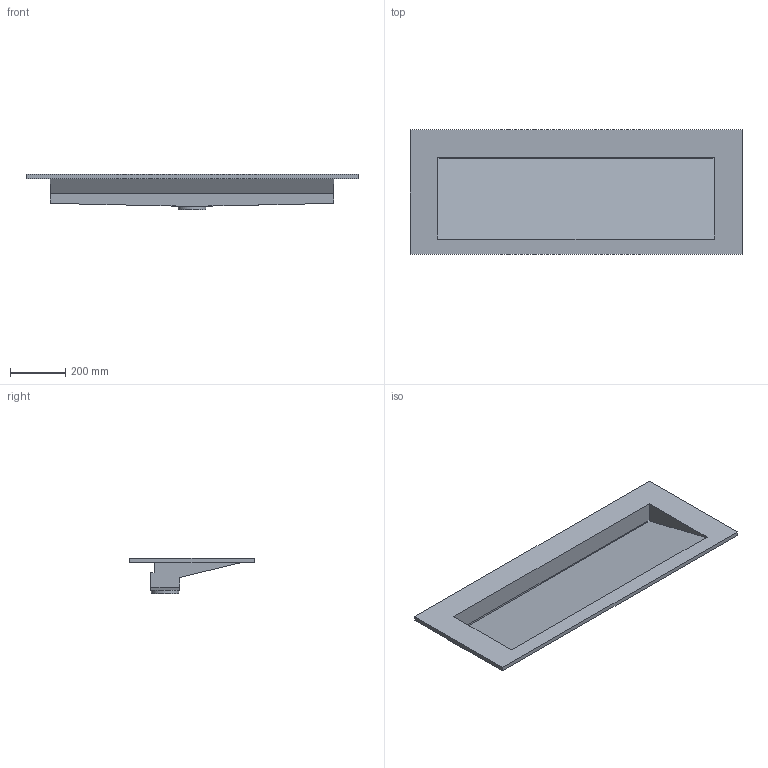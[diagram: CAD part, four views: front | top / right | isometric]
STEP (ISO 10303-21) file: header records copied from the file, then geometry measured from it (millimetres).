
FILE_DESCRIPTION(/* description */ (''),/* implementation_level */ '2;1');
FILE_NAME(/* name */ 'Cabinet Basin 1200S.stp',/* time_stamp */ '2025-10-25T10:48:31+08:00',/* author */ (''),/* organization */ (''),/* preprocessor_version */ 'ST-DEVELOPER v20',/* originating_system */ 'SIEMENS PLM Software NX2412.4001',/* authorisation */ '');
FILE_SCHEMA (('AUTOMOTIVE_DESIGN { 1 0 10303 214 3 1 1 1 }'));
Length unit declared in the file: millimetre
Products named in the file (1): Cabinet Basin 1200S
Bounding box: 1200 x 450 x 127 mm (x, y, z)
Volume: 10209138.8 mm3; surface area: 1674924 mm2
Topology: 1 solids, 1 shells, 52 faces, 138 edges, 89 vertices
Faces by surface type: plane 47, cone 3, cylinder 2
Full cylindrical faces by diameter (mm): 45 x1, 100 x1
Entity records: 1624 total; most frequent: CARTESIAN_POINT 351, ORIENTED_EDGE 262, DIRECTION 234, EDGE_CURVE 131, LINE 118, VECTOR 118, VERTEX_POINT 87, EDGE_LOOP 60
